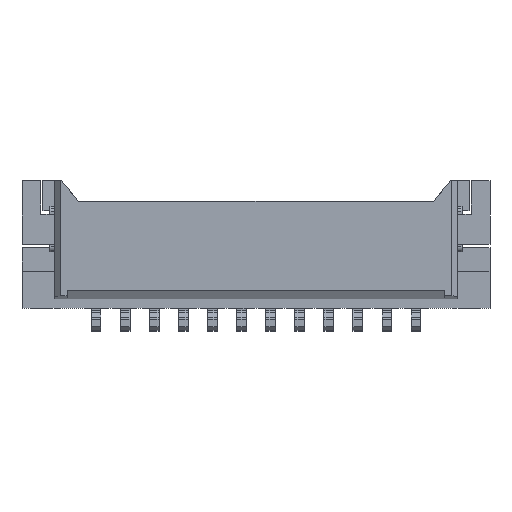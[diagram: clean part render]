
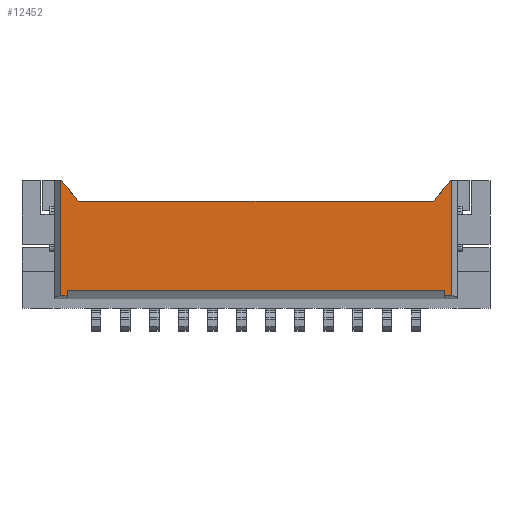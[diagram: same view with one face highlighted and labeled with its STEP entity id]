
A CAD part, front view. The second image highlights one B-rep face of the part: STEP entity #12452.
In plain terms, the highlighted planar face has unit normal (0, -1, 0).
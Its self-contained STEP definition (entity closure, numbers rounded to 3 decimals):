
#1457=DIRECTION('',(-1.,0.,0.));
#1458=VECTOR('',#1457,15.27);
#1459=CARTESIAN_POINT('',(15.21,0.,-0.9));
#1460=LINE('',#1459,#1458);
#1461=DIRECTION('',(0.,0.,-1.));
#1462=VECTOR('',#1461,0.213);
#1463=CARTESIAN_POINT('',(-0.55,0.,-4.74));
#1464=LINE('',#1463,#1462);
#1465=DIRECTION('',(0.643,0.,-0.766));
#1466=VECTOR('',#1465,1.175);
#1467=CARTESIAN_POINT('',(-0.815,0.,
0.));
#1468=LINE('',#1467,#1466);
#1469=DIRECTION('',(0.643,0.,0.766));
#1470=VECTOR('',#1469,1.175);
#1471=CARTESIAN_POINT('',(15.21,0.,-0.9));
#1472=LINE('',#1471,#1470);
#1477=DIRECTION('',(1.,0.,0.));
#1478=VECTOR('',#1477,16.25);
#1479=CARTESIAN_POINT('',(-0.55,0.,-4.74));
#1480=LINE('',#1479,#1478);
#5453=DIRECTION('',(-1.,0.,0.));
#5454=VECTOR('',#5453,0.035);
#5455=CARTESIAN_POINT('',(-0.815,0.,
0.));
#5456=LINE('',#5455,#5454);
#6011=DIRECTION('',(0.,0.,-1.));
#6012=VECTOR('',#6011,4.953);
#6013=CARTESIAN_POINT('',(-0.85,0.,0.));
#6014=LINE('',#6013,#6012);
#6027=DIRECTION('',(1.,0.,0.));
#6028=VECTOR('',#6027,0.3);
#6029=CARTESIAN_POINT('',(-0.85,0.,
-4.953));
#6030=LINE('',#6029,#6028);
#6095=DIRECTION('',(-1.,0.,0.));
#6096=VECTOR('',#6095,0.044);
#6097=CARTESIAN_POINT('',(16.009,0.,
0.));
#6098=LINE('',#6097,#6096);
#6669=DIRECTION('',(1.,0.,0.));
#6670=VECTOR('',#6669,0.309);
#6671=CARTESIAN_POINT('',(15.7,0.,-4.953));
#6672=LINE('',#6671,#6670);
#6677=DIRECTION('',(0.,0.,-1.));
#6678=VECTOR('',#6677,0.213);
#6679=CARTESIAN_POINT('',(15.7,0.,-4.74));
#6680=LINE('',#6679,#6678);
#6689=DIRECTION('',(0.,0.,1.));
#6690=VECTOR('',#6689,4.953);
#6691=CARTESIAN_POINT('',(16.009,0.,
-4.953));
#6692=LINE('',#6691,#6690);
#7877=CARTESIAN_POINT('',(16.009,0.,
0.));
#7878=VERTEX_POINT('',#7877);
#7879=CARTESIAN_POINT('',(15.965,0.,
0.));
#7880=VERTEX_POINT('',#7879);
#7887=CARTESIAN_POINT('',(16.009,0.,
-4.953));
#7888=VERTEX_POINT('',#7887);
#7889=CARTESIAN_POINT('',(15.21,0.,-0.9));
#7890=VERTEX_POINT('',#7889);
#7891=CARTESIAN_POINT('',(15.7,0.,-4.953));
#7892=VERTEX_POINT('',#7891);
#7893=CARTESIAN_POINT('',(15.7,0.,-4.74));
#7894=VERTEX_POINT('',#7893);
#9169=CARTESIAN_POINT('',(-0.55,0.,-4.74));
#9170=CARTESIAN_POINT('',(-0.55,0.,-4.953));
#9171=VERTEX_POINT('',#9169);
#9172=VERTEX_POINT('',#9170);
#9173=CARTESIAN_POINT('',(-0.85,0.,
-4.953));
#9174=VERTEX_POINT('',#9173);
#9175=CARTESIAN_POINT('',(-0.85,0.,0.));
#9176=VERTEX_POINT('',#9175);
#9177=CARTESIAN_POINT('',(-0.815,0.,
0.));
#9178=VERTEX_POINT('',#9177);
#9179=CARTESIAN_POINT('',(-0.06,0.,-0.9));
#9180=VERTEX_POINT('',#9179);
#12422=CARTESIAN_POINT('',(6.329,0.,-2.476));
#12423=DIRECTION('',(0.,1.,0.));
#12424=DIRECTION('',(1.,0.,0.));
#12425=AXIS2_PLACEMENT_3D('',#12422,#12423,#12424);
#12426=PLANE('',#12425);
#12428=ORIENTED_EDGE('',*,*,#12427,.F.);
#12430=ORIENTED_EDGE('',*,*,#12429,.T.);
#12432=ORIENTED_EDGE('',*,*,#12431,.F.);
#12434=ORIENTED_EDGE('',*,*,#12433,.F.);
#12436=ORIENTED_EDGE('',*,*,#12435,.F.);
#12438=ORIENTED_EDGE('',*,*,#12437,.T.);
#12439=ORIENTED_EDGE('',*,*,#12412,.F.);
#12441=ORIENTED_EDGE('',*,*,#12440,.T.);
#12443=ORIENTED_EDGE('',*,*,#12442,.F.);
#12445=ORIENTED_EDGE('',*,*,#12444,.F.);
#12447=ORIENTED_EDGE('',*,*,#12446,.F.);
#12449=ORIENTED_EDGE('',*,*,#12448,.F.);
#12450=EDGE_LOOP('',(#12428,#12430,#12432,#12434,#12436,#12438,#12439,#12441,
#12443,#12445,#12447,#12449));
#12451=FACE_OUTER_BOUND('',#12450,.F.);
#12412=EDGE_CURVE('',#7890,#9180,#1460,.T.);
#12427=EDGE_CURVE('',#9171,#7894,#1480,.T.);
#12429=EDGE_CURVE('',#9171,#9172,#1464,.T.);
#12431=EDGE_CURVE('',#9174,#9172,#6030,.T.);
#12433=EDGE_CURVE('',#9176,#9174,#6014,.T.);
#12435=EDGE_CURVE('',#9178,#9176,#5456,.T.);
#12437=EDGE_CURVE('',#9178,#9180,#1468,.T.);
#12440=EDGE_CURVE('',#7890,#7880,#1472,.T.);
#12442=EDGE_CURVE('',#7878,#7880,#6098,.T.);
#12444=EDGE_CURVE('',#7888,#7878,#6692,.T.);
#12446=EDGE_CURVE('',#7892,#7888,#6672,.T.);
#12448=EDGE_CURVE('',#7894,#7892,#6680,.T.);
#12452=ADVANCED_FACE('',(#12451),#12426,.F.);
